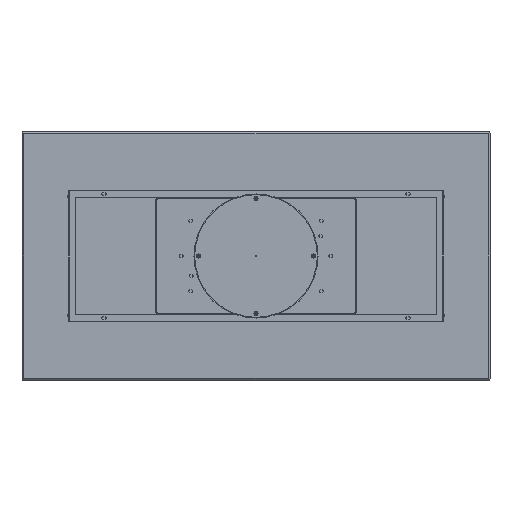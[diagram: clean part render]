
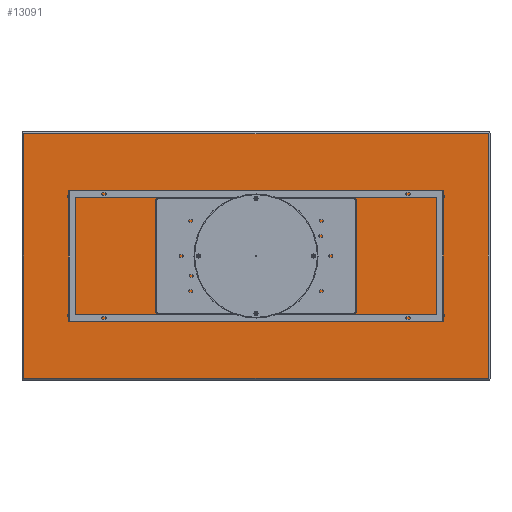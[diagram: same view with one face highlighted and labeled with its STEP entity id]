
A CAD part, front view. The second image highlights one B-rep face of the part: STEP entity #13091.
In plain terms, the highlighted planar face has unit normal (0, -1, 0).
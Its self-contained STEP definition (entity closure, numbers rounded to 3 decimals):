
#244 = ORIENTED_EDGE ( 'NONE', *, *, #13749, .T. ) ;
#290 = ORIENTED_EDGE ( 'NONE', *, *, #7433, .T. ) ;
#607 = DIRECTION ( 'NONE',  ( 0., 0., -1. ) ) ;
#1630 = DIRECTION ( 'NONE',  ( 0., 0., 1. ) ) ;
#1746 = LINE ( 'NONE', #12653, #13554 ) ;
#2284 = VERTEX_POINT ( 'NONE', #10890 ) ;
#2564 = LINE ( 'NONE', #6911, #11137 ) ;
#3338 = AXIS2_PLACEMENT_3D ( 'NONE', #8315, #13608, #1630 ) ;
#3372 = CARTESIAN_POINT ( 'NONE',  ( 0., 0., 522. ) ) ;
#3737 = LINE ( 'NONE', #8088, #5335 ) ;
#5030 = PLANE ( 'NONE',  #3338 ) ;
#5051 = EDGE_CURVE ( 'NONE', #2284, #11385, #2564, .T. ) ;
#5335 = VECTOR ( 'NONE', #10292, 1000. ) ;
#5716 = DIRECTION ( 'NONE',  ( -1., 0., 0. ) ) ;
#6659 = LINE ( 'NONE', #3372, #6780 ) ;
#6780 = VECTOR ( 'NONE', #5716, 1000. ) ;
#6911 = CARTESIAN_POINT ( 'NONE',  ( 992., 0., 0. ) ) ;
#7433 = EDGE_CURVE ( 'NONE', #10127, #2284, #3737, .T. ) ;
#7516 = EDGE_CURVE ( 'NONE', #8839, #10127, #1746, .T. ) ;
#8088 = CARTESIAN_POINT ( 'NONE',  ( 0., 0., -522. ) ) ;
#8315 = CARTESIAN_POINT ( 'NONE',  ( 0., 0., 0. ) ) ;
#8651 = EDGE_LOOP ( 'NONE', ( #8720, #244, #10077, #290 ) ) ;
#8720 = ORIENTED_EDGE ( 'NONE', *, *, #5051, .T. ) ;
#8751 = CARTESIAN_POINT ( 'NONE',  ( -992., 0., -522. ) ) ;
#8839 = VERTEX_POINT ( 'NONE', #10361 ) ;
#9448 = FACE_OUTER_BOUND ( 'NONE', #8651, .T. ) ;
#10077 = ORIENTED_EDGE ( 'NONE', *, *, #7516, .T. ) ;
#10104 = DIRECTION ( 'NONE',  ( 0., 0., 1. ) ) ;
#10127 = VERTEX_POINT ( 'NONE', #8751 ) ;
#10292 = DIRECTION ( 'NONE',  ( 1., 0., 0. ) ) ;
#10361 = CARTESIAN_POINT ( 'NONE',  ( -992., 0., 522. ) ) ;
#10890 = CARTESIAN_POINT ( 'NONE',  ( 992., 0., -522. ) ) ;
#10901 = CARTESIAN_POINT ( 'NONE',  ( 992., 0., 522. ) ) ;
#11137 = VECTOR ( 'NONE', #10104, 1000. ) ;
#11385 = VERTEX_POINT ( 'NONE', #10901 ) ;
#12653 = CARTESIAN_POINT ( 'NONE',  ( -992., 0., 0. ) ) ;
#13091 = ADVANCED_FACE ( 'NONE', ( #9448 ), #5030, .F. ) ;
#13554 = VECTOR ( 'NONE', #607, 1000. ) ;
#13608 = DIRECTION ( 'NONE',  ( 0., 1., 0. ) ) ;
#13749 = EDGE_CURVE ( 'NONE', #11385, #8839, #6659, .T. ) ;
